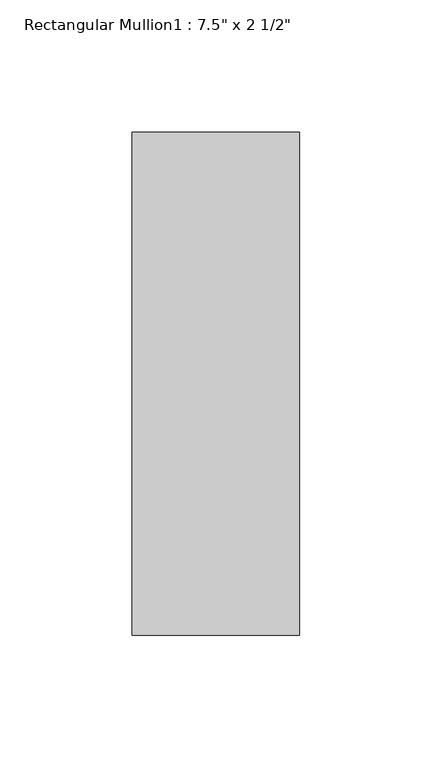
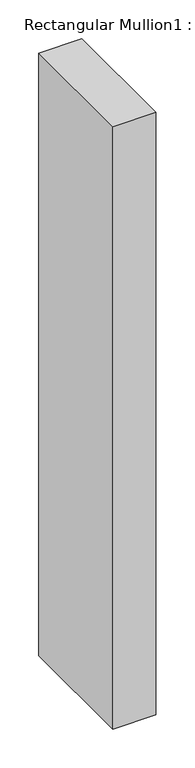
"""IFC4 building model written with IfcOpenShell, lengths in millimetres: member geometry."""

from ifc_helpers import new_model, si_unit, frame, origin, place, context, project, spatial, polyline, outline, extrude, source, transform, mapped, element, save


def member_dd268773(model_context):
    return source(origin(), model_context, "Body", "SweptSolid", [
        extrude(outline(polyline([(-63.5, 165.1), (0.0, 165.1), (0.0, -25.4), (-63.5, -25.4), (-63.5, 165.1)])), frame((0.0, 0.0, -946.15), z_axis=(0.0, 0.0, 1.0), x_axis=(1.0, 0.0, 0.0)), (0.0, 0.0, 1.0), 946.15),
    ])


if __name__ == "__main__":
    model = new_model("IFC4")
    model_context = context("Model", 3, world=origin())
    ifc_project = project(units=[si_unit("LENGTHUNIT", "METRE", prefix="MILLI")], contexts=[model_context])
    site = spatial("IfcSite", under=ifc_project)
    building = spatial("IfcBuilding", under=site)
    placement = place(None, origin())
    member_shape = member_dd268773(model_context)
    element("IfcMember", 1, ObjectType="Rectangular Mullion1 : 7.5\" x 2 1/2\"", at=placement, inside=building, context=model_context, shape_type="MappedRepresentation", body=[
        mapped(member_shape, transform((0.0, 0.0, 0.0), x_axis=(1.0, 0.0, 0.0), y_axis=(0.0, 1.0, 0.0), z_axis=(0.0, 0.0, 1.0))),
    ])
    save(model, "model.ifc")
